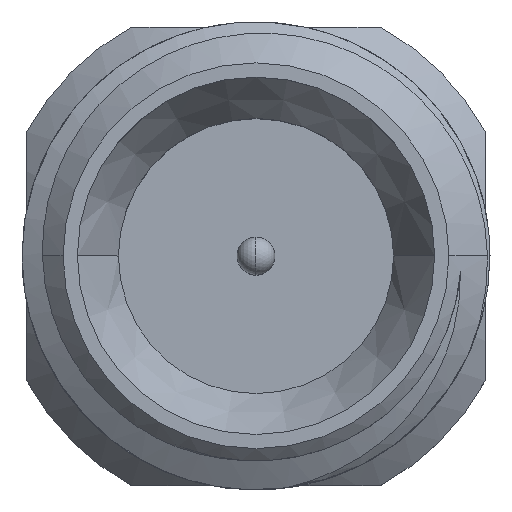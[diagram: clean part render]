
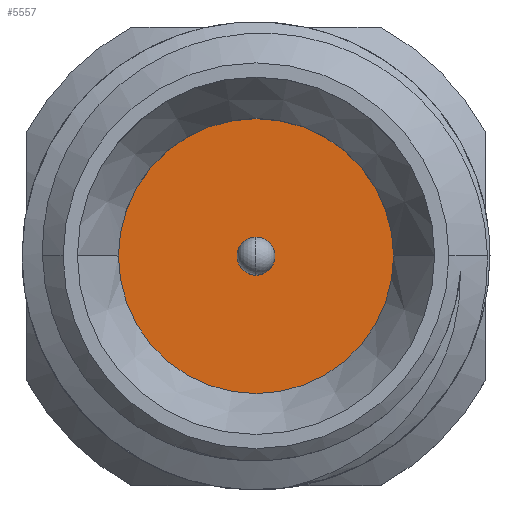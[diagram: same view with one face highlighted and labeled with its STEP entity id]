
A CAD part, top view. The second image highlights one B-rep face of the part: STEP entity #5557.
In plain terms, the highlighted planar face has unit normal (0, 0, 1).
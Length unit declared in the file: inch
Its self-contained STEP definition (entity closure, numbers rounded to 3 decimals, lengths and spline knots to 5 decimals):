
#30 = DIRECTION ( 'NONE',  ( 1., 0., 0. ) ) ;
#1007 = DIRECTION ( 'NONE',  ( 0., 0., 1. ) ) ;
#1032 = AXIS2_PLACEMENT_3D ( 'NONE', #12154, #3166, #11226 ) ;
#1079 = ORIENTED_EDGE ( 'NONE', *, *, #2982, .F. ) ;
#1528 = EDGE_CURVE ( 'NONE', #12305, #12378, #3060, .T. ) ;
#1601 = EDGE_CURVE ( 'NONE', #12378, #12305, #4744, .T. ) ;
#2067 = ORIENTED_EDGE ( 'NONE', *, *, #1528, .T. ) ;
#2434 = CARTESIAN_POINT ( 'NONE',  ( 0.0435, 0., -0.083 ) ) ;
#2982 = EDGE_CURVE ( 'NONE', #3528, #6506, #11690, .T. ) ;
#3060 = CIRCLE ( 'NONE', #10440, 0.0435 ) ;
#3166 = DIRECTION ( 'NONE',  ( 0., 0., 1. ) ) ;
#3317 = FACE_BOUND ( 'NONE', #11402, .T. ) ;
#3452 = AXIS2_PLACEMENT_3D ( 'NONE', #7409, #11434, #11572 ) ;
#3528 = VERTEX_POINT ( 'NONE', #11076 ) ;
#3813 = CARTESIAN_POINT ( 'NONE',  ( -0.0435, 0., -0.083 ) ) ;
#4168 = DIRECTION ( 'NONE',  ( -1., 0., 0. ) ) ;
#4744 = CIRCLE ( 'NONE', #7295, 0.0435 ) ;
#5356 = DIRECTION ( 'NONE',  ( 0., 0., -1. ) ) ;
#5557 = ADVANCED_FACE ( 'NONE', ( #3317, #8283 ), #10254, .F. ) ;
#5632 = CARTESIAN_POINT ( 'NONE',  ( 0., 0., -0.083 ) ) ;
#6506 = VERTEX_POINT ( 'NONE', #11733 ) ;
#7221 = EDGE_LOOP ( 'NONE', ( #2067, #8706 ) ) ;
#7295 = AXIS2_PLACEMENT_3D ( 'NONE', #5632, #9587, #12702 ) ;
#7366 = EDGE_CURVE ( 'NONE', #6506, #3528, #10756, .T. ) ;
#7409 = CARTESIAN_POINT ( 'NONE',  ( 0., 0., -0.083 ) ) ;
#7423 = CARTESIAN_POINT ( 'NONE',  ( 0., 0.0435, -0.083 ) ) ;
#7591 = AXIS2_PLACEMENT_3D ( 'NONE', #7423, #5356, #4168 ) ;
#8283 = FACE_OUTER_BOUND ( 'NONE', #7221, .T. ) ;
#8706 = ORIENTED_EDGE ( 'NONE', *, *, #1601, .T. ) ;
#9587 = DIRECTION ( 'NONE',  ( 0., 0., 1. ) ) ;
#10062 = CARTESIAN_POINT ( 'NONE',  ( 0., 0., -0.083 ) ) ;
#10254 = PLANE ( 'NONE',  #7591 ) ;
#10440 = AXIS2_PLACEMENT_3D ( 'NONE', #10062, #1007, #30 ) ;
#10676 = ORIENTED_EDGE ( 'NONE', *, *, #7366, .F. ) ;
#10756 = CIRCLE ( 'NONE', #1032, 0.006 ) ;
#11076 = CARTESIAN_POINT ( 'NONE',  ( -0.006, 0., -0.083 ) ) ;
#11226 = DIRECTION ( 'NONE',  ( -1., 0., 0. ) ) ;
#11402 = EDGE_LOOP ( 'NONE', ( #10676, #1079 ) ) ;
#11434 = DIRECTION ( 'NONE',  ( 0., 0., 1. ) ) ;
#11572 = DIRECTION ( 'NONE',  ( -1., 0., 0. ) ) ;
#11690 = CIRCLE ( 'NONE', #3452, 0.006 ) ;
#11733 = CARTESIAN_POINT ( 'NONE',  ( 0.006, 0., -0.083 ) ) ;
#12154 = CARTESIAN_POINT ( 'NONE',  ( 0., 0., -0.083 ) ) ;
#12305 = VERTEX_POINT ( 'NONE', #2434 ) ;
#12378 = VERTEX_POINT ( 'NONE', #3813 ) ;
#12702 = DIRECTION ( 'NONE',  ( 1., 0., 0. ) ) ;
